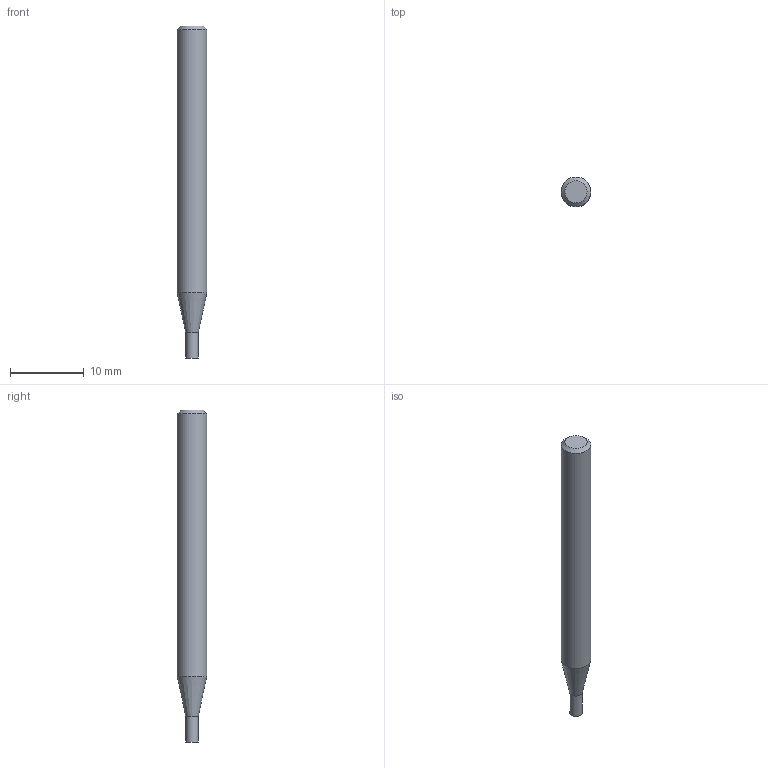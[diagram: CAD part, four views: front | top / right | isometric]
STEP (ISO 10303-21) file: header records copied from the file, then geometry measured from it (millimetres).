
FILE_DESCRIPTION((''),'2;1');
FILE_NAME('C:\Users\nsx150\AppData\Local\Temp\Mastercam 2021\E36A1X9CCL\TEMP.step','2023-04-21T15:12:22',(''),(''),'STEP Write','Mastercam 2021 ... CNC Software, Inc.','');
FILE_SCHEMA(('AUTOMOTIVE_DESIGN'));
Length unit declared in the file: millimetre
Products named in the file (1): None
Bounding box: 4 x 4 x 45 mm (x, y, z)
Volume: 497.4 mm3; surface area: 537.8 mm2
Topology: 2 solids, 2 shells, 8 faces, 10 edges, 6 vertices
Faces by surface type: plane 4, cylinder 2, cone 2
Full cylindrical faces by diameter (mm): 1.7 x1, 4 x1
Entity records: 190 total; most frequent: DIRECTION 32, CARTESIAN_POINT 22, AXIS2_PLACEMENT_3D 16, ORIENTED_EDGE 12, EDGE_LOOP 12, STYLED_ITEM 11, ADVANCED_FACE 8, VERTEX_POINT 6
